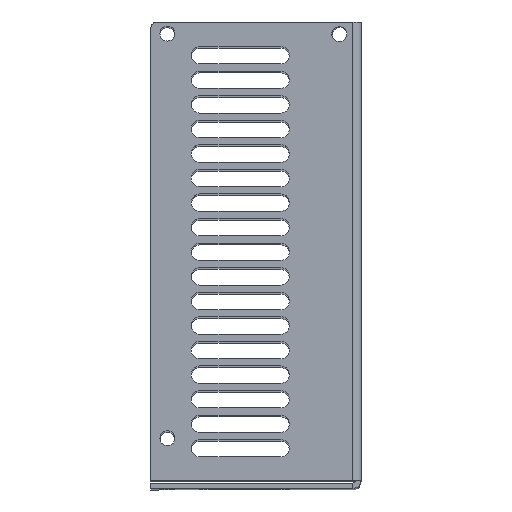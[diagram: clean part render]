
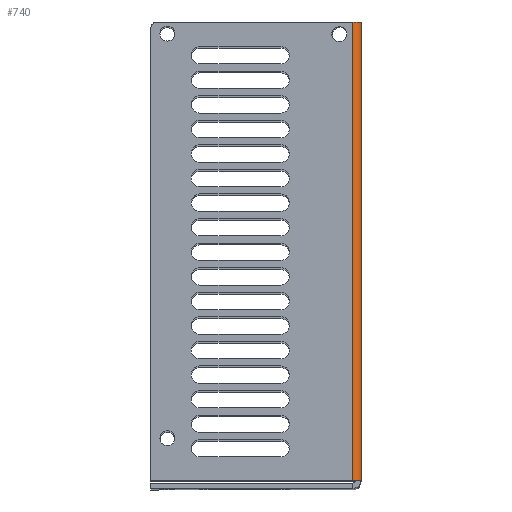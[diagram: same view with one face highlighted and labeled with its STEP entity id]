
A CAD part, top view. The second image highlights one B-rep face of the part: STEP entity #740.
In plain terms, the highlighted cylindrical face has radius 2.8 mm (diameter 5.6 mm), a partial arc.
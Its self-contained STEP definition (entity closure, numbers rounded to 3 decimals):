
#740 = ADVANCED_FACE ( 'NONE', ( #21570 ), #15349, .T. ) ;
#889 = CARTESIAN_POINT ( 'NONE',  ( 76.7, 8.163, -1. ) ) ;
#1994 = AXIS2_PLACEMENT_3D ( 'NONE', #21161, #5628, #5689 ) ;
#3533 = AXIS2_PLACEMENT_3D ( 'NONE', #15380, #5059, #17097 ) ;
#4201 = CARTESIAN_POINT ( 'NONE',  ( 73.9, 166.663, 1.8 ) ) ;
#4237 = CIRCLE ( 'NONE', #14490, 2.8 ) ;
#5059 = DIRECTION ( 'NONE',  ( 0., -1., 0. ) ) ;
#5320 = VECTOR ( 'NONE', #18037, 1000. ) ;
#5402 = VECTOR ( 'NONE', #21408, 1000. ) ;
#5628 = DIRECTION ( 'NONE',  ( 0., -1., 0. ) ) ;
#5689 = DIRECTION ( 'NONE',  ( 1., 0., 0. ) ) ;
#6323 = EDGE_LOOP ( 'NONE', ( #12951, #10363, #8273, #17904 ) ) ;
#6633 = VERTEX_POINT ( 'NONE', #21527 ) ;
#7841 = CARTESIAN_POINT ( 'NONE',  ( 76.7, 166.663, -1. ) ) ;
#8273 = ORIENTED_EDGE ( 'NONE', *, *, #14925, .F. ) ;
#8830 = DIRECTION ( 'NONE',  ( 0., 1., 0. ) ) ;
#9030 = EDGE_CURVE ( 'NONE', #9074, #13809, #4237, .T. ) ;
#9074 = VERTEX_POINT ( 'NONE', #20991 ) ;
#9988 = LINE ( 'NONE', #4201, #5402 ) ;
#10363 = ORIENTED_EDGE ( 'NONE', *, *, #12348, .F. ) ;
#11114 = EDGE_CURVE ( 'NONE', #6633, #9074, #9988, .T. ) ;
#12348 = EDGE_CURVE ( 'NONE', #19144, #6633, #18590, .T. ) ;
#12951 = ORIENTED_EDGE ( 'NONE', *, *, #11114, .F. ) ;
#13809 = VERTEX_POINT ( 'NONE', #7841 ) ;
#14490 = AXIS2_PLACEMENT_3D ( 'NONE', #19169, #8830, #20901 ) ;
#14512 = LINE ( 'NONE', #16307, #5320 ) ;
#14925 = EDGE_CURVE ( 'NONE', #13809, #19144, #14512, .T. ) ;
#15349 = CYLINDRICAL_SURFACE ( 'NONE', #1994, 2.8 ) ;
#15380 = CARTESIAN_POINT ( 'NONE',  ( 73.9, 8.163, -1. ) ) ;
#16307 = CARTESIAN_POINT ( 'NONE',  ( 76.7, 0., -1. ) ) ;
#17097 = DIRECTION ( 'NONE',  ( 0., 0., -1. ) ) ;
#17904 = ORIENTED_EDGE ( 'NONE', *, *, #9030, .F. ) ;
#18037 = DIRECTION ( 'NONE',  ( 0., -1., 0. ) ) ;
#18590 = CIRCLE ( 'NONE', #3533, 2.8 ) ;
#19144 = VERTEX_POINT ( 'NONE', #889 ) ;
#19169 = CARTESIAN_POINT ( 'NONE',  ( 73.9, 166.663, -1. ) ) ;
#20901 = DIRECTION ( 'NONE',  ( 0., 0., -1. ) ) ;
#20991 = CARTESIAN_POINT ( 'NONE',  ( 73.9, 166.663, 1.8 ) ) ;
#21161 = CARTESIAN_POINT ( 'NONE',  ( 73.9, 8.163, -1. ) ) ;
#21408 = DIRECTION ( 'NONE',  ( 0., 1., 0. ) ) ;
#21527 = CARTESIAN_POINT ( 'NONE',  ( 73.9, 8.163, 1.8 ) ) ;
#21570 = FACE_OUTER_BOUND ( 'NONE', #6323, .T. ) ;
